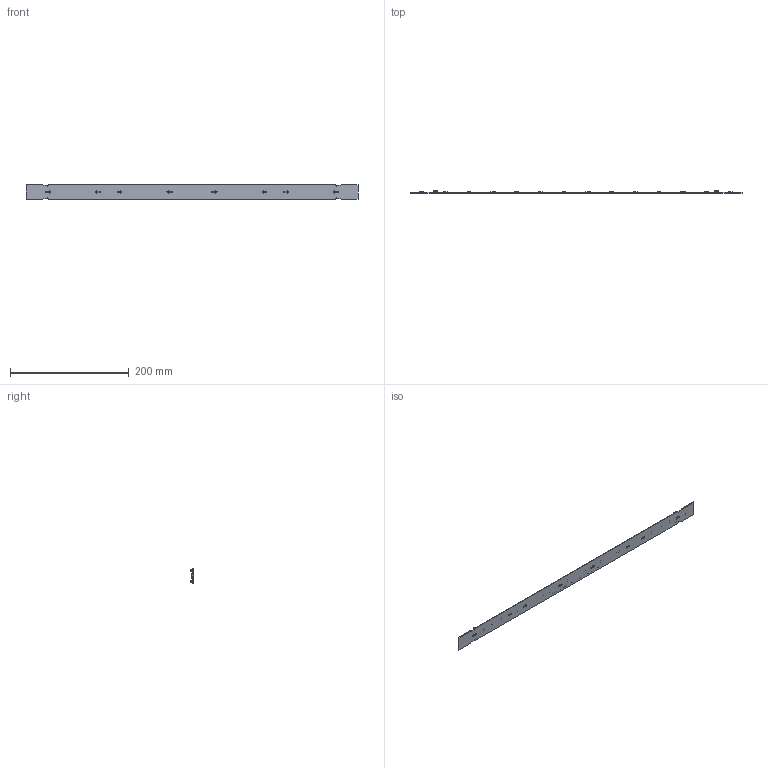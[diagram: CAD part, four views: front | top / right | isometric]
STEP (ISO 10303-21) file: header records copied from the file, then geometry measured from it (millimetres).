
FILE_DESCRIPTION((''),'2;1');
FILE_NAME('_3D-MODEL__L56W2_SELV-NO-SELV_W_ASM','2021-10-19T15:23:49',('msavic'),(''),'CREO PARAMETRIC BY PTC INC, 2016510','CREO PARAMETRIC BY PTC INC, 2016510','');
FILE_SCHEMA(('AUTOMOTIVE_DESIGN { 1 0 10303 214 1 1 1 1 }'));
Products named in the file (20): PRT0001_14; 3DFILE_STW8A2PD_ASM_3_1_1_1_3; GERMANY__TXT0_1; VSO-LOGO-5MM_3_5_1_2; BUILT-IN_LED_MODULE-5MM004_2_6_; BUILT-IN_LED_MODULE-5MM003_2_5_; BUILT-IN_LED_MODULE-5MM002_2_4_; BUILT-IN_LED_MODULE-5MM001_2_5_; UKCA_8_1; UKCA_8_2; UKCA_8_3; UKCA_8_4; UKCA_8_ASM; CE-ZEICHEN-6MM_2_6_1_1; CE-ZEICHEN-6MM001_2_7_1_1; VSO-LOGO-5MM001_2_1_4_1_1; ASM0002_ASM_16_ASM; 2065-101_998-403_9; MCA_1206; _3D-MODEL__L56W2_SELV-NO-SELV_W_ASM
Assembly tree (79 placements, depth 4):
  _3D-MODEL__L56W2_SELV-NO-SELV_W_ASM
    ASM0002_ASM_16_ASM
      PRT0001_14
      3DFILE_STW8A2PD_ASM_3_1_1_1_3  x56
      GERMANY__TXT0_1
      VSO-LOGO-5MM_3_5_1_2
      BUILT-IN_LED_MODULE-5MM004_2_6_
      BUILT-IN_LED_MODULE-5MM003_2_5_
      BUILT-IN_LED_MODULE-5MM002_2_4_
      BUILT-IN_LED_MODULE-5MM001_2_5_  x2
      UKCA_8_ASM
        UKCA_8_1
        UKCA_8_2
        UKCA_8_3
        UKCA_8_4
      CE-ZEICHEN-6MM_2_6_1_1
      CE-ZEICHEN-6MM001_2_7_1_1
      VSO-LOGO-5MM001_2_1_4_1_1
    2065-101_998-403_9  x4
    MCA_1206  x2
Bounding box: 559 x 4.3 x 25 mm (x, y, z)
Surface area: 31993.4 mm2
Topology: 20 solids, 77 shells, 6097 faces, 19930 edges, 14233 vertices
Faces by surface type: plane 4685, cylinder 1402, extrusion 10
Entity records: 72997 total; most frequent: CARTESIAN_POINT 9854, ORIENTED_EDGE 8964, DIRECTION 7478, PRESENTATION_STYLE_ASSIGNMENT 5166, STYLED_ITEM 4499, CURVE_STYLE 4482, EDGE_CURVE 4482, VECTOR 3730
